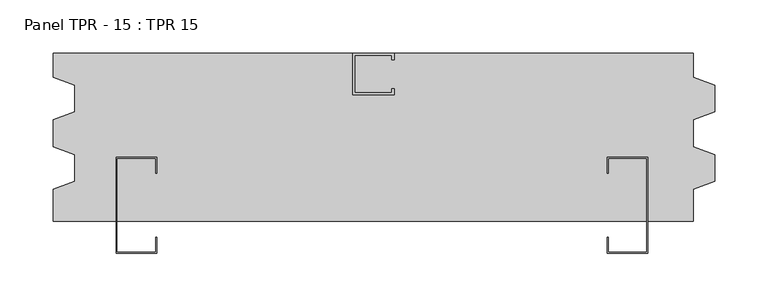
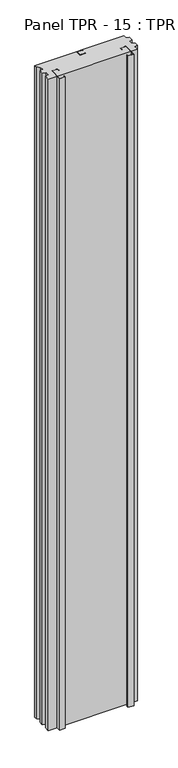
"""IFC4 building model written with IfcOpenShell, lengths in millimetres: plate geometry, Panel TPR - 15 : TPR 15."""

from ifc_helpers import new_model, si_unit, origin, origin_with_axes, place, context, project, spatial, polyline, outline, extrude, source, transform, mapped, element, save


def panel_tpr_15_tpr_15_f2dff052(model_context):
    return source(origin(), model_context, "Body", "SweptSolid", [
        extrude(outline(polyline([(-19.5, 78.75), (19.5, 78.75), (19.5, 72.75), (17.5, 72.75), (17.5, 76.75), (-17.5, 76.75), (-17.5, 41.75), (17.5, 41.75), (17.5, 45.75), (19.5, 45.75), (19.5, 39.75), (-19.5, 39.75), (-19.5, 78.75)])), origin_with_axes(), (0.0, 0.0, 1.0), 4618.8021535),
        extrude(outline(polyline([(-203.2000002, -18.75), (-203.2000002, -33.75), (-204.0500002, -33.75), (-204.0500002, -19.6), (-240.3500002, -19.6), (-240.3500002, -107.9), (-204.0500002, -107.9), (-204.0500002, -93.75), (-203.2000002, -93.75), (-203.2000002, -108.75), (-241.2000002, -108.75), (-241.2000002, -18.75), (-203.2000002, -18.75)])), origin_with_axes(), (0.0, 0.0, 1.0), 4618.8021535),
        extrude(outline(polyline([(219.2000002, -18.75), (257.2000002, -18.75), (257.2000002, -108.75), (219.2000002, -108.75), (219.2000002, -93.75), (220.0500002, -93.75), (220.0500002, -107.9), (256.3500002, -107.9), (256.3500002, -19.6), (220.0500002, -19.6), (220.0500002, -33.75), (219.2000002, -33.75), (219.2000002, -18.75)])), origin_with_axes(), (0.0, 0.0, 1.0), 4618.8021535),
        extrude(outline(polyline([(-300.0000002, 78.75), (300.0000002, 78.75), (300.0000002, 56.2520076), (320.0000002, 48.7510038), (320.0000002, 23.7510038), (300.0000002, 16.25), (300.0000002, -8.75), (320.0000002, -16.2510038), (320.0000002, -41.2510038), (300.0000002, -48.7520076), (300.0000002, -78.75), (-300.0000002, -78.75), (-300.0000002, -48.7520076), (-280.0000002, -41.2510038), (-280.0000002, -16.2510038), (-300.0000002, -8.75), (-300.0000002, 16.25), (-280.0000002, 23.7510038), (-280.0000002, 48.7510038), (-300.0000002, 56.2520076), (-300.0000002, 78.75)])), origin_with_axes(), (0.0, 0.0, 1.0), 4618.8021535),
    ])


if __name__ == "__main__":
    model = new_model("IFC4")
    model_context = context("Model", 3, world=origin())
    ifc_project = project(units=[si_unit("LENGTHUNIT", "METRE", prefix="MILLI")], contexts=[model_context])
    site = spatial("IfcSite", under=ifc_project)
    building = spatial("IfcBuilding", under=site)
    placement = place(None, origin())
    panel_tpr_15_tpr_15_shape = panel_tpr_15_tpr_15_f2dff052(model_context)
    element("IfcPlate", 1, ObjectType="Panel TPR - 15 : TPR 15", at=placement, inside=building, context=model_context, shape_type="MappedRepresentation", body=[
        mapped(panel_tpr_15_tpr_15_shape, transform((0.0, 0.0, 0.0), x_axis=(1.0, 0.0, 0.0), y_axis=(0.0, 1.0, 0.0), z_axis=(0.0, 0.0, 1.0))),
    ])
    save(model, "model.ifc")
